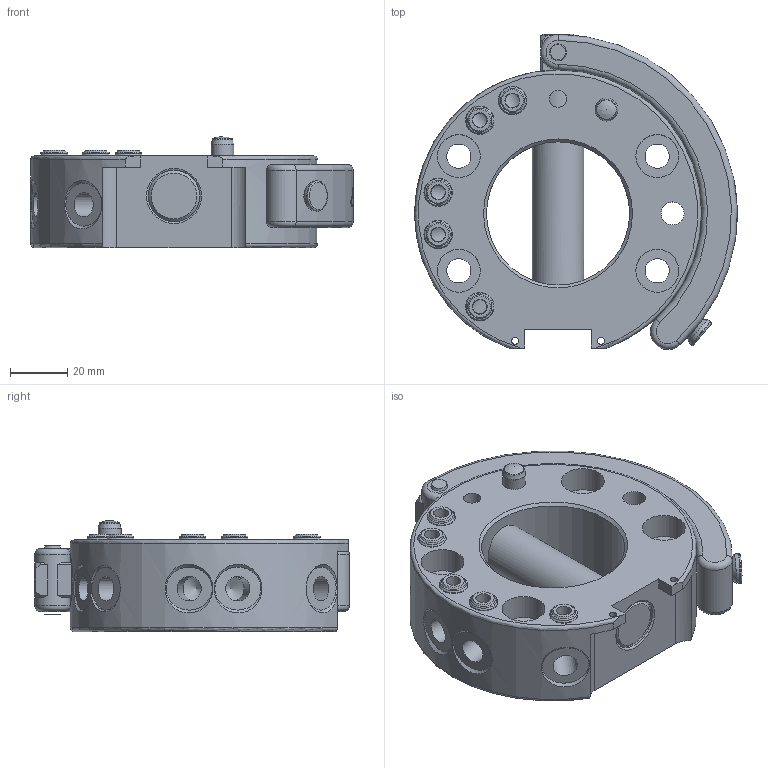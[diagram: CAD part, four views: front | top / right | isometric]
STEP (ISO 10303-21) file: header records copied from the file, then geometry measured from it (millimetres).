
FILE_DESCRIPTION(/* description */ (''),/* implementation_level */ '2;1');
FILE_NAME(/* name */ 'G-HWS100-O-K080_Rev.1.01.stp',/* time_stamp */ '2025-04-01T13:28:04+02:00',/* author */ ('ysplieth'),/* organization */ (''),/* preprocessor_version */ 'ST-DEVELOPER v20',/* originating_system */ 'Autodesk Inventor 2024',/* authorisation */ '');
FILE_SCHEMA (('AUTOMOTIVE_DESIGN { 1 0 10303 214 3 1 1 }'));
Length unit declared in the file: millimetre
Products named in the file (1): Bauteil6
Bounding box: 112.54 x 109.97 x 38.8 mm (x, y, z)
Volume: 209091.8 mm3; surface area: 46391.6 mm2
Topology: 1 solids, 3 shells, 432 faces, 1107 edges, 731 vertices
Faces by surface type: plane 168, bspline 104, cylinder 101, cone 37, torus 20, sphere 2
Full cylindrical faces by diameter (mm): 0.651 x1, 2.459 x2, 4.917 x2, 5 x5, 5.2 x5, 6 x1, 6.5 x1, 7 x1, 8 x2, 8.5 x4, 8.566 x5, 9.9 x5, 10.6 x1, 15 x4, 18 x2, 50 x1
Entity records: 16742 total; most frequent: CARTESIAN_POINT 6577, ORIENTED_EDGE 2196, DIRECTION 1664, EDGE_CURVE 1098, VERTEX_POINT 731, AXIS2_PLACEMENT_3D 585, EDGE_LOOP 525, LINE 494
